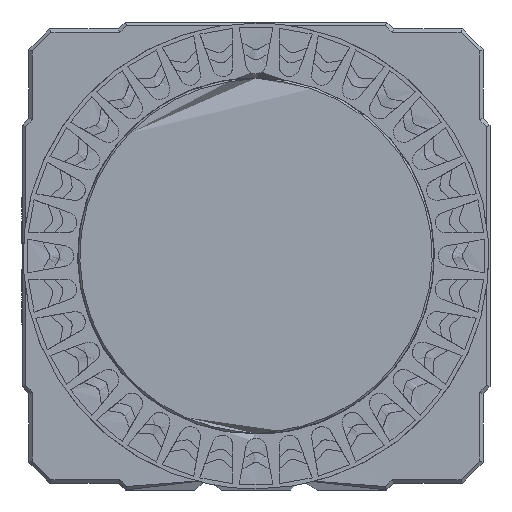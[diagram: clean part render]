
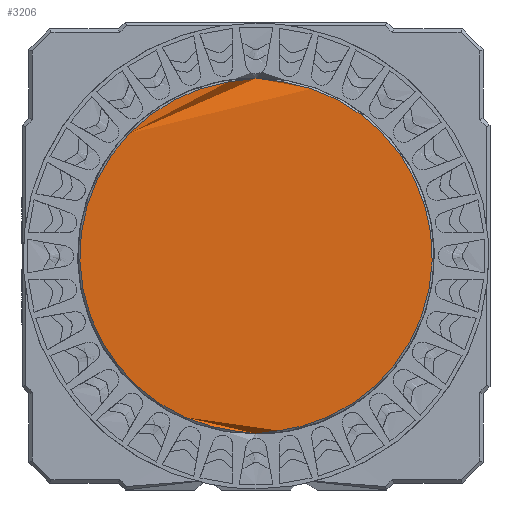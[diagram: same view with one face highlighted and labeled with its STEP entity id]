
A CAD part, front view. The second image highlights one B-rep face of the part: STEP entity #3206.
In plain terms, the highlighted planar face has unit normal (0, -1, 0).
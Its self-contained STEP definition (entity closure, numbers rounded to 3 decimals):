
#41 = CARTESIAN_POINT ( 'NONE',  ( 25.6, 0., -1.676 ) ) ;
#196 = CARTESIAN_POINT ( 'NONE',  ( 24.293, 0., 8.249 ) ) ;
#915 = CARTESIAN_POINT ( 'NONE',  ( -22.219, 0., -12.825 ) ) ;
#1183 = CARTESIAN_POINT ( 'NONE',  ( -11.349, 0., 23.008 ) ) ;
#1431 = CARTESIAN_POINT ( 'NONE',  ( 0., 1.507, 25.825 ) ) ;
#1579 = EDGE_CURVE ( 'NONE', #23933, #8882, #9524, .T. ) ;
#1753 = DIRECTION ( 'NONE',  ( 0., 0., -1. ) ) ;
#1764 = CARTESIAN_POINT ( 'NONE',  ( 6.638, 0., 24.781 ) ) ;
#2324 = CARTESIAN_POINT ( 'NONE',  ( 24.293, 0., -8.249 ) ) ;
#2606 = CARTESIAN_POINT ( 'NONE',  ( 16.917, 0., -19.287 ) ) ;
#3048 = CARTESIAN_POINT ( 'NONE',  ( -8.244, 0., 24.294 ) ) ;
#3081 = EDGE_CURVE ( 'NONE', #23933, #8882, #16506, .T. ) ;
#3206 = ADVANCED_FACE ( 'NONE', ( #13015 ), #19031, .T. ) ;
#3328 = CARTESIAN_POINT ( 'NONE',  ( -1.681, 0., 25.6 ) ) ;
#3470 = CARTESIAN_POINT ( 'NONE',  ( -25.436, 0., 3.346 ) ) ;
#3909 = CARTESIAN_POINT ( 'NONE',  ( 11.345, 0., 23.01 ) ) ;
#4334 = CARTESIAN_POINT ( 'NONE',  ( 15.616, 0., -20.355 ) ) ;
#4618 = CARTESIAN_POINT ( 'NONE',  ( 0., 0., -25.6 ) ) ;
#4753 = CARTESIAN_POINT ( 'NONE',  ( 25.6, 0., 1.676 ) ) ;
#5335 = CARTESIAN_POINT ( 'NONE',  ( -25.6, 0., -1.681 ) ) ;
#5474 = CARTESIAN_POINT ( 'NONE',  ( -19.29, 0., 16.914 ) ) ;
#5606 = CARTESIAN_POINT ( 'NONE',  ( -3.346, 0., -25.436 ) ) ;
#5758 = CARTESIAN_POINT ( 'NONE',  ( 12.829, 0., 22.216 ) ) ;
#7742 = CARTESIAN_POINT ( 'NONE',  ( -11.349, 0., -23.008 ) ) ;
#8023 = CARTESIAN_POINT ( 'NONE',  ( -8.244, 0., -24.294 ) ) ;
#8312 = CARTESIAN_POINT ( 'NONE',  ( 20.355, 0., 15.616 ) ) ;
#8447 = DIRECTION ( 'NONE',  ( 0., -1., 0. ) ) ;
#8882 = VERTEX_POINT ( 'NONE', #13923 ) ;
#9029 = CARTESIAN_POINT ( 'NONE',  ( 22.216, 0., -12.829 ) ) ;
#9170 = CARTESIAN_POINT ( 'NONE',  ( 24.781, 0., 6.638 ) ) ;
#9524 = B_SPLINE_CURVE_WITH_KNOTS ( 'NONE', 3,
 ( #15027, #10325, #23472, #1764, #12751, #3909, #5758, #27894, #10043, #27477, #8312, #14448, #23187, #196, #9170, #26040, #4753, #41, #19610, #13309, #2324, #22028, #9029, #17883, #23889, #2606, #4334, #13450, #26318, #11025, #17608, #19468, #23754, #4618 ),
 .UNSPECIFIED., .F., .F.,
 ( 4, 2, 2, 2, 2, 2, 2, 2, 2, 2, 2, 2, 2, 2, 2, 2, 4 ),
 ( 0., 0.063, 0.125, 0.188, 0.25, 0.313, 0.375, 0.438, 0.5, 0.563, 0.625, 0.688, 0.75, 0.813, 0.875, 0.938, 1. ),
 .UNSPECIFIED. ) ;
#9614 = CARTESIAN_POINT ( 'NONE',  ( -16.914, 0., -19.29 ) ) ;
#9894 = CARTESIAN_POINT ( 'NONE',  ( -24.294, 0., -8.244 ) ) ;
#10043 = CARTESIAN_POINT ( 'NONE',  ( 16.917, 0., 19.287 ) ) ;
#10118 = ORIENTED_EDGE ( 'NONE', *, *, #3081, .T. ) ;
#10174 = CARTESIAN_POINT ( 'NONE',  ( -25.436, 0., -3.346 ) ) ;
#10325 = CARTESIAN_POINT ( 'NONE',  ( 1.676, 0., 25.6 ) ) ;
#11025 = CARTESIAN_POINT ( 'NONE',  ( 8.249, 0., -24.293 ) ) ;
#11752 = CARTESIAN_POINT ( 'NONE',  ( -22.219, 0., 12.825 ) ) ;
#11891 = CARTESIAN_POINT ( 'NONE',  ( -6.643, 0., -24.78 ) ) ;
#12028 = CARTESIAN_POINT ( 'NONE',  ( -20.352, 0., -15.62 ) ) ;
#12319 = CARTESIAN_POINT ( 'NONE',  ( -23.008, 0., 11.349 ) ) ;
#12751 = CARTESIAN_POINT ( 'NONE',  ( 8.249, 0., 24.293 ) ) ;
#13015 = FACE_OUTER_BOUND ( 'NONE', #15568, .T. ) ;
#13309 = CARTESIAN_POINT ( 'NONE',  ( 24.781, 0., -6.638 ) ) ;
#13450 = CARTESIAN_POINT ( 'NONE',  ( 12.829, 0., -22.216 ) ) ;
#13923 = CARTESIAN_POINT ( 'NONE',  ( 0., 1.507, -25.825 ) ) ;
#14019 = CARTESIAN_POINT ( 'NONE',  ( -25.6, 0., 1.681 ) ) ;
#14154 = CARTESIAN_POINT ( 'NONE',  ( -12.825, 0., 22.219 ) ) ;
#14437 = CARTESIAN_POINT ( 'NONE',  ( 0., 0., 25.6 ) ) ;
#14448 = CARTESIAN_POINT ( 'NONE',  ( 22.216, 0., 12.829 ) ) ;
#15027 = CARTESIAN_POINT ( 'NONE',  ( 0., 0., 25.6 ) ) ;
#15568 = EDGE_LOOP ( 'NONE', ( #10118, #21292 ) ) ;
#16467 = CARTESIAN_POINT ( 'NONE',  ( -3.346, 0., 25.436 ) ) ;
#16506 = B_SPLINE_CURVE_WITH_KNOTS ( 'NONE', 3,
 ( #14437, #3328, #16467, #27608, #3048, #1183, #14154, #25040, #20491, #5474, #18617, #11752, #12319, #25177, #23035, #3470, #14019, #5335, #10174, #22761, #9894, #27039, #915, #12028, #20754, #9614, #27321, #18328, #7742, #8023, #11891, #5606, #22900, #16609 ),
 .UNSPECIFIED., .F., .F.,
 ( 4, 2, 2, 2, 2, 2, 2, 2, 2, 2, 2, 2, 2, 2, 2, 2, 4 ),
 ( 0., 0.063, 0.125, 0.188, 0.25, 0.313, 0.375, 0.438, 0.5, 0.563, 0.625, 0.688, 0.75, 0.813, 0.875, 0.938, 1. ),
 .UNSPECIFIED. ) ;
#16609 = CARTESIAN_POINT ( 'NONE',  ( 0., 0., -25.6 ) ) ;
#16943 = AXIS2_PLACEMENT_3D ( 'NONE', #27749, #8447, #1753 ) ;
#17608 = CARTESIAN_POINT ( 'NONE',  ( 6.638, 0., -24.781 ) ) ;
#17883 = CARTESIAN_POINT ( 'NONE',  ( 20.355, 0., -15.616 ) ) ;
#18328 = CARTESIAN_POINT ( 'NONE',  ( -12.825, 0., -22.219 ) ) ;
#18617 = CARTESIAN_POINT ( 'NONE',  ( -20.352, 0., 15.62 ) ) ;
#19031 = PLANE ( 'NONE',  #16943 ) ;
#19468 = CARTESIAN_POINT ( 'NONE',  ( 3.351, 0., -25.435 ) ) ;
#19610 = CARTESIAN_POINT ( 'NONE',  ( 25.435, 0., -3.351 ) ) ;
#20491 = CARTESIAN_POINT ( 'NONE',  ( -16.914, 0., 19.29 ) ) ;
#20754 = CARTESIAN_POINT ( 'NONE',  ( -19.29, 0., -16.914 ) ) ;
#21292 = ORIENTED_EDGE ( 'NONE', *, *, #1579, .F. ) ;
#22028 = CARTESIAN_POINT ( 'NONE',  ( 23.01, 0., -11.345 ) ) ;
#22761 = CARTESIAN_POINT ( 'NONE',  ( -24.78, 0., -6.643 ) ) ;
#22900 = CARTESIAN_POINT ( 'NONE',  ( -1.681, 0., -25.6 ) ) ;
#23035 = CARTESIAN_POINT ( 'NONE',  ( -24.78, 0., 6.643 ) ) ;
#23187 = CARTESIAN_POINT ( 'NONE',  ( 23.01, 0., 11.345 ) ) ;
#23472 = CARTESIAN_POINT ( 'NONE',  ( 3.351, 0., 25.435 ) ) ;
#23754 = CARTESIAN_POINT ( 'NONE',  ( 1.676, 0., -25.6 ) ) ;
#23889 = CARTESIAN_POINT ( 'NONE',  ( 19.287, 0., -16.917 ) ) ;
#23933 = VERTEX_POINT ( 'NONE', #1431 ) ;
#25040 = CARTESIAN_POINT ( 'NONE',  ( -15.62, 0., 20.352 ) ) ;
#25177 = CARTESIAN_POINT ( 'NONE',  ( -24.294, 0., 8.244 ) ) ;
#26040 = CARTESIAN_POINT ( 'NONE',  ( 25.435, 0., 3.351 ) ) ;
#26318 = CARTESIAN_POINT ( 'NONE',  ( 11.345, 0., -23.01 ) ) ;
#27039 = CARTESIAN_POINT ( 'NONE',  ( -23.008, 0., -11.349 ) ) ;
#27321 = CARTESIAN_POINT ( 'NONE',  ( -15.62, 0., -20.352 ) ) ;
#27477 = CARTESIAN_POINT ( 'NONE',  ( 19.287, 0., 16.917 ) ) ;
#27608 = CARTESIAN_POINT ( 'NONE',  ( -6.643, 0., 24.78 ) ) ;
#27749 = CARTESIAN_POINT ( 'NONE',  ( 0., 0., 0. ) ) ;
#27894 = CARTESIAN_POINT ( 'NONE',  ( 15.616, 0., 20.355 ) ) ;
